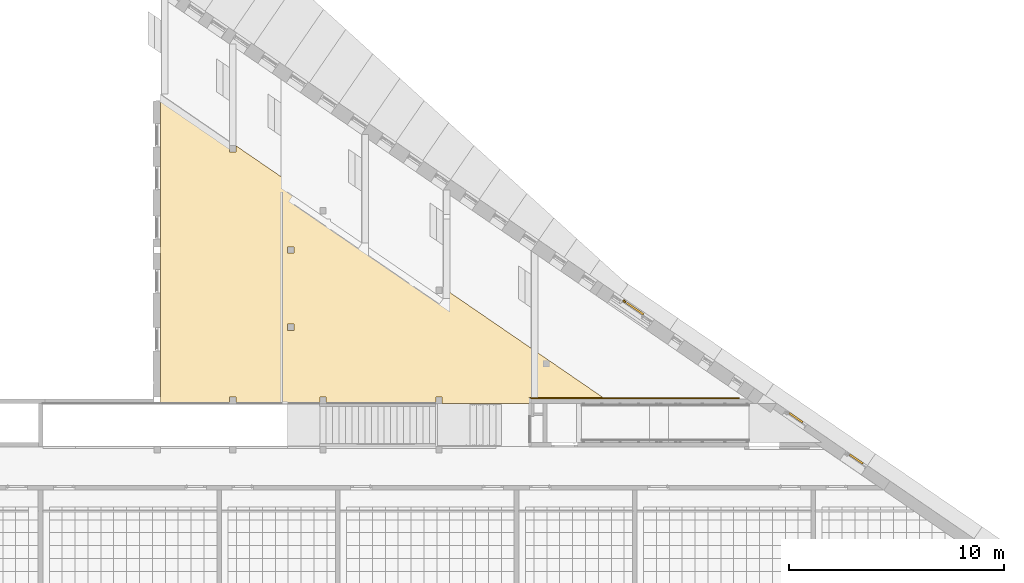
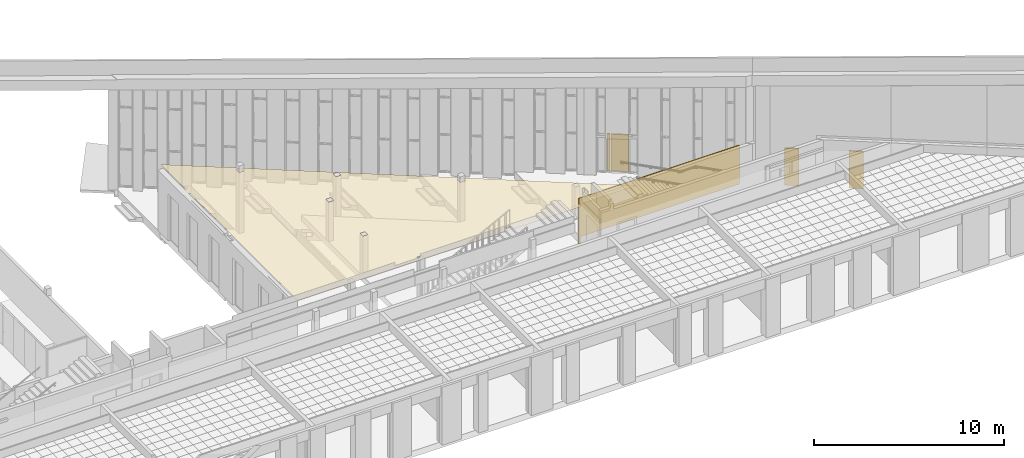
# One storey, part 63 of 79: 6 coverings, 3 openings.
"""IFC2X3 building model written with IfcOpenShell, lengths in millimetres."""

from ifc_helpers import new_model, entity, si_unit, converted_unit, derived_unit, money_unit, direction, frame, origin_with_axes, place, context, subcontext, project, spatial, faceted_brep, material, material_list, type_object, element, save


model = new_model("IFC2X3")

# Units and contexts
model_context = context("Model", 3, precision=0.01, world=origin_with_axes(), true_north=direction((0.0, 1.0)))
body_context = subcontext(model_context, "Body", "Model", "MODEL_VIEW")
ifc_project = project(units=[si_unit("LENGTHUNIT", "METRE", prefix="MILLI"), si_unit("AREAUNIT", "SQUARE_METRE"), si_unit("VOLUMEUNIT", "CUBIC_METRE"), converted_unit("PLANEANGLEUNIT", "DEGREE", entity("IfcPlaneAngleMeasure", 0.0174532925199), si_unit("PLANEANGLEUNIT", "RADIAN"), dimensions=[0, 0, 0, 0, 0, 0, 0]), si_unit("SOLIDANGLEUNIT", "STERADIAN"), money_unit("EUR"), converted_unit("TIMEUNIT", "Year", entity("IfcTimeMeasure", 31556926.0), si_unit("TIMEUNIT", "SECOND"), dimensions=[0, 0, 1, 0, 0, 0, 0]), si_unit("MASSUNIT", "GRAM", prefix="KILO"), si_unit("THERMODYNAMICTEMPERATUREUNIT", "DEGREE_CELSIUS"), si_unit("LUMINOUSINTENSITYUNIT", "LUMEN"), si_unit("ENERGYUNIT", "JOULE", prefix="MEGA"), derived_unit("THERMALCONDUCTANCEUNIT", [(si_unit("POWERUNIT", "WATT"), 1), (si_unit("LENGTHUNIT", "METRE"), -1), (si_unit("THERMODYNAMICTEMPERATUREUNIT", "KELVIN"), -1)]), derived_unit("SPECIFICHEATCAPACITYUNIT", [(si_unit("ENERGYUNIT", "JOULE"), 1), (si_unit("MASSUNIT", "GRAM", prefix="KILO"), -1), (si_unit("THERMODYNAMICTEMPERATUREUNIT", "KELVIN"), -1)]), derived_unit("MASSDENSITYUNIT", [(si_unit("MASSUNIT", "GRAM", prefix="KILO"), 1), (si_unit("VOLUMEUNIT", "CUBIC_METRE"), -1)])], contexts=[model_context])

# Site, building, storey
site_placement = place(None, origin_with_axes())
site = spatial("IfcSite", under=ifc_project, at=site_placement, Name="L.Koidula tn 11b", CompositionType="ELEMENT")
building_placement = place(site_placement, origin_with_axes())
building = spatial("IfcBuilding", under=site, at=building_placement, Name="Rakvere Riigigümnaasium", CompositionType="ELEMENT")
storey_placement = place(building_placement, frame((0.0, 0.0, 3720.0), z_axis=(0.0, 0.0, 1.0), x_axis=(1.0, 0.0, 0.0)))
storey = spatial("IfcBuildingStorey", under=building, at=storey_placement, Name="2.korrus +3,72", CompositionType="ELEMENT", Elevation=3720.0)

# Covering, openings
ifc_material_1 = material(Name="Tolmutõke")
covering_type_1 = type_object("IfcCoveringType", Name="Tolmutõke 1", PredefinedType="CLADDING")
covering_1_placement = place(storey_placement, frame((61689.8244543, 29110.0509083, 2549.0), z_axis=(0.0, 0.0, 1.0), x_axis=(1.0, 0.0, 0.0)))
covering_1 = element("IfcCovering", 1, at=covering_1_placement, inside=storey, type_object=covering_type_1, material=ifc_material_1, Name="L-07", PredefinedType="CLADDING", context=body_context, shape_type="Brep", body=[
    faceted_brep([(0.0, 0.0, 0.0), (0.0, 0.0, -1.0), (-3499.78964424, 2400.40468085, -1.0), (-3499.78964424, 2400.40468085, 0.0), (-299.803451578, 0.0, 0.0), (-299.803451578, 0.0, -1.0), (-299.803451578, -300.000141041, -1.0), (0.196381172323, -300.000141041, -1.0), (0.196381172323, -0.134723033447, -1.0), (9607.19539375, -6589.29770854, -1.0), (9310.17364911, -6589.29770854, -1.0), (9310.17364911, -6889.29754129, -1.0), (9610.17348186, -6889.29754129, -1.0), (9610.17348186, -6591.34013439, -1.0), (14600.1423064, -10013.8157134, -1.0), (14300.1554218, -10013.8157134, -1.0), (14300.1554218, -10313.8158545, -1.0), (14600.1555629, -10313.8158545, -1.0), (14600.1555629, -10013.8246538, -1.0), (17189.2289077, -11789.595393, -1.0), (13740.1577071, -11789.595393, -1.0), (13740.1577071, -11999.5903741, -1.0), (9610.17348186, -11999.5903741, -1.0), (9610.17348186, -11699.5951657, -1.0), (9310.17364911, -11699.5951657, -1.0), (9310.17364911, -11999.5903741, -1.0), (4210.17340945, -11999.5903741, -1.0), (4210.17340945, -11699.5951657, -1.0), (3910.1735767, -11699.5951657, -1.0), (3910.1735767, -11999.5903741, -1.0), (0.196689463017, -11999.5903741, -1.0), (0.196689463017, -11699.6185958, -1.0), (-299.803759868, -11699.6185958, -1.0), (-299.803759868, -11999.5903741, -1.0), (-3499.78964424, -11999.5903741, -1.0), (2420.19632684, -8609.58767046, -1.0), (2720.19646789, -8609.58767046, -1.0), (2720.19646789, -8309.58783771, -1.0), (2420.19632684, -8309.58783771, -1.0), (2720.19646789, -4709.59539394, -1.0), (2420.19632684, -4709.59539394, -1.0), (2420.19632684, -5009.59522669, -1.0), (2720.19646789, -5009.59522669, -1.0), (3910.1735767, -2887.77958987, -1.0), (3910.1735767, -3187.77973091, -1.0), (4210.17371774, -3187.77973091, -1.0), (4210.17371774, -2887.77958987, -1.0), (-3499.78964424, -11999.5903741, 0.0), (-299.803759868, -11999.5903741, 0.0), (-299.803759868, -11699.6185958, 0.0), (0.196689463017, -11699.6185958, 0.0), (0.196689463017, -11999.5903741, 0.0), (3910.1735767, -11999.5903741, 0.0), (3910.1735767, -11699.5951657, 0.0), (4210.17340945, -11699.5951657, 0.0), (4210.17340945, -11999.5903741, 0.0), (9310.17364911, -11999.5903741, 0.0), (9310.17364911, -11699.5951657, 0.0), (9610.17348186, -11699.5951657, 0.0), (9610.17348186, -11999.5903741, 0.0), (13740.1577071, -11999.5903741, 0.0), (13740.1577071, -11789.595393, 0.0), (17189.2289077, -11789.595393, 0.0), (14600.1555629, -10013.8246538, 0.0), (14600.1555629, -10313.8158545, 0.0), (14300.1554218, -10313.8158545, 0.0), (14300.1554218, -10013.8157134, 0.0), (14600.1423064, -10013.8157134, 0.0), (9610.17348186, -6591.34013439, 0.0), (9610.17348186, -6889.29754129, 0.0), (9310.17364911, -6889.29754129, 0.0), (9310.17364911, -6589.29770854, 0.0), (9607.19539375, -6589.29770854, 0.0), (0.196381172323, -0.134723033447, 0.0), (0.196381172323, -300.000141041, 0.0), (-299.803451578, -300.000141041, 0.0), (2720.19646789, -8309.58783771, 0.0), (2720.19646789, -8609.58767046, 0.0), (2420.19632684, -8609.58767046, 0.0), (2420.19632684, -8309.58783771, 0.0), (2420.19632684, -5009.59522669, 0.0), (2420.19632684, -4709.59539394, 0.0), (2720.19646789, -4709.59539394, 0.0), (2720.19646789, -5009.59522669, 0.0), (4210.17371774, -3187.77973091, 0.0), (3910.1735767, -3187.77973091, 0.0), (3910.1735767, -2887.77958987, 0.0), (4210.17371774, -2887.77958987, 0.0)], [[[0, 1, 2, 3]], [[4, 5, 1, 0]], [[2, 1, 5, 6, 7, 8, 9, 10, 11, 12, 13, 14, 15, 16, 17, 18, 19, 20, 21, 22, 23, 24, 25, 26, 27, 28, 29, 30, 31, 32, 33, 34], [35, 36, 37, 38], [39, 40, 41, 42], [43, 44, 45, 46]], [[3, 2, 34, 47]], [[4, 0, 3, 47, 48, 49, 50, 51, 52, 53, 54, 55, 56, 57, 58, 59, 60, 61, 62, 63, 64, 65, 66, 67, 68, 69, 70, 71, 72, 73, 74, 75], [76, 77, 78, 79], [80, 81, 82, 83], [84, 85, 86, 87]], [[75, 6, 5, 4]], [[74, 7, 6, 75]], [[73, 8, 7, 74]], [[72, 9, 8, 73]], [[71, 10, 9, 72]], [[70, 11, 10, 71]], [[69, 12, 11, 70]], [[68, 13, 12, 69]], [[67, 14, 13, 68]], [[66, 15, 14, 67]], [[65, 16, 15, 66]], [[64, 17, 16, 65]], [[63, 18, 17, 64]], [[62, 19, 18, 63]], [[61, 20, 19, 62]], [[60, 21, 20, 61]], [[59, 22, 21, 60]], [[58, 23, 22, 59]], [[57, 24, 23, 58]], [[56, 25, 24, 57]], [[55, 26, 25, 56]], [[54, 27, 26, 55]], [[53, 28, 27, 54]], [[52, 29, 28, 53]], [[51, 30, 29, 52]], [[50, 31, 30, 51]], [[49, 32, 31, 50]], [[48, 33, 32, 49]], [[47, 34, 33, 48]], [[77, 36, 35, 78]], [[76, 37, 36, 77]], [[79, 38, 37, 76]], [[78, 35, 38, 79]], [[81, 40, 39, 82]], [[80, 41, 40, 81]], [[83, 42, 41, 80]], [[82, 39, 42, 83]], [[85, 44, 43, 86]], [[84, 45, 44, 85]], [[87, 46, 45, 84]], [[86, 43, 46, 87]]]),
])
opening_1_placement = place(covering_1_placement, origin_with_axes())
element("IfcOpeningElement", 2, at=opening_1_placement, cuts=covering_1, Name="Slab Opening", context=body_context, shape_type="Brep", body=[
    faceted_brep([(2420.19632684, -8609.58767046, -1.0), (2420.19632684, -8309.58783771, -1.0), (2720.19646789, -8309.58783771, -1.0), (2720.19646789, -8609.58767046, -1.0), (2420.19632684, -8609.58767046, 0.0), (2420.19632684, -8309.58783771, 0.0), (2720.19646789, -8309.58783771, 0.0), (2720.19646789, -8609.58767046, 0.0)], [[[0, 1, 2, 3]], [[4, 5, 1, 0]], [[5, 6, 2, 1]], [[6, 7, 3, 2]], [[7, 4, 0, 3]], [[4, 7, 6, 5]]]),
])
opening_2_placement = place(covering_1_placement, origin_with_axes())
element("IfcOpeningElement", 3, at=opening_2_placement, cuts=covering_1, Name="Slab Opening", context=body_context, shape_type="Brep", body=[
    faceted_brep([(2420.19632684, -5009.59522669, -1.0), (2420.19632684, -4709.59539394, -1.0), (2720.19646789, -4709.59539394, -1.0), (2720.19646789, -5009.59522669, -1.0), (2420.19632684, -5009.59522669, 0.0), (2420.19632684, -4709.59539394, 0.0), (2720.19646789, -4709.59539394, 0.0), (2720.19646789, -5009.59522669, 0.0)], [[[0, 1, 2, 3]], [[4, 5, 1, 0]], [[5, 6, 2, 1]], [[6, 7, 3, 2]], [[7, 4, 0, 3]], [[4, 7, 6, 5]]]),
])
opening_3_placement = place(covering_1_placement, origin_with_axes())
element("IfcOpeningElement", 4, at=opening_3_placement, cuts=covering_1, Name="Slab Opening", context=body_context, shape_type="Brep", body=[
    faceted_brep([(3910.1735767, -3187.77973091, -1.0), (3910.1735767, -2887.77958987, -1.0), (4210.17371774, -2887.77958987, -1.0), (4210.17371774, -3187.77973091, -1.0), (3910.1735767, -3187.77973091, 0.0), (3910.1735767, -2887.77958987, 0.0), (4210.17371774, -2887.77958987, 0.0), (4210.17371774, -3187.77973091, 0.0)], [[[0, 1, 2, 3]], [[4, 5, 1, 0]], [[5, 6, 2, 1]], [[6, 7, 3, 2]], [[7, 4, 0, 3]], [[4, 7, 6, 5]]]),
])

# Coverings
ifc_material_2 = material(Name="MDF")
ifc_material_3 = material(Name="Klaasvill")
ifc_material_list = material_list([ifc_material_2, ifc_material_3])
covering_type_2 = type_object("IfcCoveringType", Name="SA - Akustiline sein 57", PredefinedType="CLADDING")
covering_2_placement = place(storey_placement, frame((75415.0821418, 17320.4555416, 0.0), z_axis=(0.0, 0.0, 1.0), x_axis=(1.0, 0.0, 0.0)))
element("IfcCovering", 5, at=covering_2_placement, inside=storey, type_object=covering_type_2, material=ifc_material_list, Name="S-03", PredefinedType="CLADDING", context=body_context, shape_type="Brep", body=[
    faceted_brep([(9701.77823431, 41.0, 465.0), (9701.77823431, 57.0, 465.0), (9701.77823431, 57.0, 2945.0), (9701.77823431, 41.0, 2945.0), (40.005838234, 57.0, 465.0), (40.005838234, 41.0, 465.0), (40.005838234, 57.0, 0.0), (-57.0, 57.0, 0.0), (-57.0, 57.0, 2945.0), (-57.0, 41.0, 2945.0), (-57.0, 41.0, 0.0), (40.005838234, 41.0, 0.0)], [[[0, 1, 2, 3]], [[4, 1, 0, 5]], [[4, 6, 7, 8, 2, 1]], [[9, 3, 2, 8]], [[5, 0, 3, 9, 10, 11]], [[6, 4, 5, 11]], [[6, 11, 10, 7]], [[10, 9, 8, 7]]]),
    faceted_brep([(9701.77823431, 0.0, 465.0), (9701.77823431, 41.0, 465.0), (9701.77823431, 41.0, 2945.0), (9701.77823431, 0.0, 2945.0), (40.005838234, 41.0, 465.0), (40.005838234, 0.0, 465.0), (40.005838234, 41.0, 0.0), (-41.0, 41.0, 0.0), (-41.0, 41.0, 2945.0), (-41.0, 0.0, 2945.0), (-41.0, 0.0, 0.0), (40.005838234, 0.0, 0.0)], [[[0, 1, 2, 3]], [[4, 1, 0, 5]], [[4, 6, 7, 8, 2, 1]], [[9, 3, 2, 8]], [[5, 0, 3, 9, 10, 11]], [[6, 4, 5, 11]], [[6, 11, 10, 7]], [[10, 9, 8, 7]]]),
])
ifc_material_4 = material(Name="Puit-fassaad")
covering_type_3 = type_object("IfcCoveringType", Name="Puit-fassaad 84", PredefinedType="CLADDING")
covering_3_placement = place(storey_placement, frame((79822.409381, 21785.4193816, 465.0), z_axis=(0.0, 0.0, 1.0), x_axis=(-0.824666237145, 0.565619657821, 0.0)))
element("IfcCovering", 6, at=covering_3_placement, inside=storey, type_object=covering_type_3, material=ifc_material_4, Name="Välisuksele kinnitatud laudis", PredefinedType="CLADDING", context=body_context, shape_type="Brep", body=[
    faceted_brep([(0.0, 0.0, 0.0), (148.019991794, 0.0, 0.0), (148.019991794, -84.0, 0.0), (0.0, -84.0, 0.0), (0.0, 0.0, 2347.0), (148.019991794, 0.0, 2347.0), (148.019991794, -84.0, 2347.0), (0.0, -84.0, 2347.0)], [[[0, 1, 2, 3]], [[4, 5, 1, 0]], [[2, 1, 5, 6]], [[3, 2, 6, 7]], [[4, 0, 3, 7]], [[7, 6, 5, 4]]]),
])
for number, where, z_axis, x_axis in (
    (7, (90860.9766555, 14275.2760471, 0.0), (0.0, 0.0, 1.0), (-0.824666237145, 0.565619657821, 0.0)),
    (8, (88057.1132242, 16198.3854716, 0.0), (0.0, 0.0, 1.0), (-0.824666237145, 0.565619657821, 0.0)),
):
    element("IfcCovering", number, at=place(storey_placement, frame(where, z_axis=z_axis, x_axis=x_axis)), inside=storey, type_object=covering_type_3, material=ifc_material_4, Name="Välisuksele kinnitatud laudis", PredefinedType="CLADDING", context=body_context, shape_type="Brep", body=[
        faceted_brep([(0.0, 0.0, 0.0), (750.0, 0.0, 0.0), (750.0, -84.0, 0.0), (0.0, -84.0, 0.0), (0.0, 0.0, 2372.0), (750.0, 0.0, 2372.0), (750.0, -84.0, 2372.0), (0.0, -84.0, 2372.0)], [[[0, 1, 2, 3]], [[4, 5, 1, 0]], [[2, 1, 5, 6]], [[3, 2, 6, 7]], [[4, 0, 3, 7]], [[7, 6, 5, 4]]]),
    ])
covering_4_placement = place(storey_placement, frame((80647.5546348, 21219.4711773, 465.0), z_axis=(0.0, 0.0, 1.0), x_axis=(-0.824666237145, 0.565619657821, 0.0)))
element("IfcCovering", 9, at=covering_4_placement, inside=storey, type_object=covering_type_3, material=ifc_material_4, Name="Välisuksele kinnitatud laudis", PredefinedType="CLADDING", context=body_context, shape_type="Brep", body=[
    faceted_brep([(0.0, 0.0, 0.0), (936.689627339, 0.0, 0.0), (936.689627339, -84.0, 0.0), (0.0, -84.0, 0.0), (0.0, 0.0, 2347.0), (936.689627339, 0.0, 2347.0), (936.689627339, -84.0, 2347.0), (0.0, -84.0, 2347.0)], [[[0, 1, 2, 3]], [[4, 5, 1, 0]], [[2, 1, 5, 6]], [[3, 2, 6, 7]], [[4, 0, 3, 7]], [[7, 6, 5, 4]]]),
])

save(model, "model.ifc")
